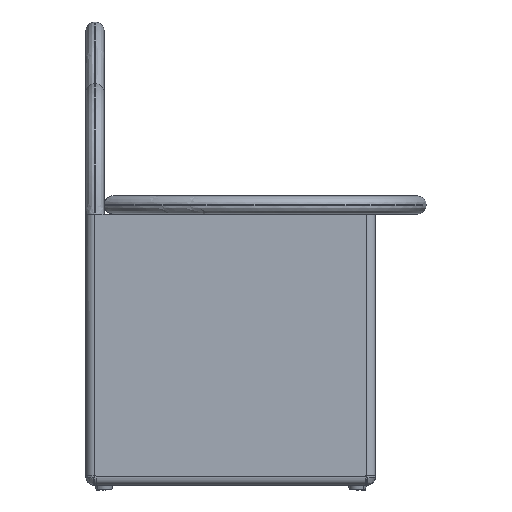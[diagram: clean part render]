
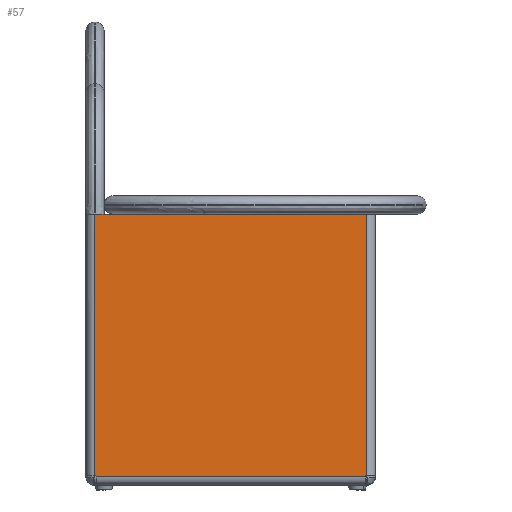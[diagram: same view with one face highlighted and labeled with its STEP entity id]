
A CAD part, left-side view. The second image highlights one B-rep face of the part: STEP entity #57.
In plain terms, the highlighted planar face has unit normal (-1, 0, 0).
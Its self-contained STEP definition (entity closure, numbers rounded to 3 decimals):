
#57=ADVANCED_FACE('',(#138),#1199,.T.);
#138=FACE_OUTER_BOUND('',#222,.T.);
#222=EDGE_LOOP('',(#402,#403,#404,#405,#406,#407,#408,#409));
#402=ORIENTED_EDGE('',*,*,#742,.F.);
#403=ORIENTED_EDGE('',*,*,#731,.T.);
#404=ORIENTED_EDGE('',*,*,#712,.T.);
#405=ORIENTED_EDGE('',*,*,#722,.T.);
#406=ORIENTED_EDGE('',*,*,#692,.F.);
#407=ORIENTED_EDGE('',*,*,#733,.T.);
#408=ORIENTED_EDGE('',*,*,#754,.F.);
#409=ORIENTED_EDGE('',*,*,#753,.F.);
#692=EDGE_CURVE('',#1086,#1087,#882,.T.);
#712=EDGE_CURVE('',#1106,#1107,#977,.T.);
#722=EDGE_CURVE('',#1107,#1087,#987,.T.);
#731=EDGE_CURVE('',#1116,#1106,#996,.T.);
#733=EDGE_CURVE('',#1086,#1120,#997,.T.);
#742=EDGE_CURVE('',#1116,#1127,#894,.T.);
#753=EDGE_CURVE('',#1127,#1130,#1003,.T.);
#754=EDGE_CURVE('',#1130,#1120,#1004,.T.);
#882=(
BOUNDED_CURVE()
B_SPLINE_CURVE(1,(#2166,#2167),.UNSPECIFIED.,.F.,.F.)
B_SPLINE_CURVE_WITH_KNOTS((2,2),(-288.689,0.),.UNSPECIFIED.)
CURVE()
GEOMETRIC_REPRESENTATION_ITEM()
RATIONAL_B_SPLINE_CURVE((1.,1.))
REPRESENTATION_ITEM('')
);
#894=(
BOUNDED_CURVE()
B_SPLINE_CURVE(1,(#2332,#2333),.UNSPECIFIED.,.F.,.F.)
B_SPLINE_CURVE_WITH_KNOTS((2,2),(-290.1,-1.411),
 .UNSPECIFIED.)
CURVE()
GEOMETRIC_REPRESENTATION_ITEM()
RATIONAL_B_SPLINE_CURVE((1.,1.))
REPRESENTATION_ITEM('')
);
#977=B_SPLINE_CURVE_WITH_KNOTS('',1,(#2208,#2209),.UNSPECIFIED.,.F.,.F.,
(2,2),(1538.685,1818.685),.UNSPECIFIED.);
#987=B_SPLINE_CURVE_WITH_KNOTS('',1,(#2229,#2230),.UNSPECIFIED.,.F.,.F.,
(2,2),(1818.685,1828.785),.UNSPECIFIED.);
#996=B_SPLINE_CURVE_WITH_KNOTS('',1,(#2247,#2248),.UNSPECIFIED.,.F.,.F.,
(2,2),(1528.585,1538.685),.UNSPECIFIED.);
#997=B_SPLINE_CURVE_WITH_KNOTS('',3,(#2252,#2253,#2254,#2255,#2256,#2257,
#2258),.UNSPECIFIED.,.F.,.F.,(4,3,4),(4.903,7.354,
7.354),.UNSPECIFIED.);
#1003=B_SPLINE_CURVE_WITH_KNOTS('',3,(#2357,#2358,#2359,#2360,#2361,#2362,
#2363),.UNSPECIFIED.,.F.,.F.,(4,3,4),(33.621,36.072,
36.072),.UNSPECIFIED.);
#1004=B_SPLINE_CURVE_WITH_KNOTS('',1,(#2364,#2365),.UNSPECIFIED.,.F.,.F.,
(2,2),(11.311,308.689),.UNSPECIFIED.);
#1086=VERTEX_POINT('',#1917);
#1087=VERTEX_POINT('',#1918);
#1106=VERTEX_POINT('',#1937);
#1107=VERTEX_POINT('',#1938);
#1116=VERTEX_POINT('',#1947);
#1120=VERTEX_POINT('',#1951);
#1127=VERTEX_POINT('',#1958);
#1130=VERTEX_POINT('',#1961);
#1199=PLANE('',#1371);
#1371=AXIS2_PLACEMENT_3D('',#1700,#1430,$);
#1430=DIRECTION('',(-1.,0.,0.));
#1700=CARTESIAN_POINT('',(4702.803,-300.,0.));
#1917=CARTESIAN_POINT('',(4702.803,10.1,-288.689));
#1918=CARTESIAN_POINT('',(4702.803,10.1,0.));
#1937=CARTESIAN_POINT('',(4702.803,-280.,0.));
#1938=CARTESIAN_POINT('',(4702.803,0.,0.));
#1947=CARTESIAN_POINT('',(4702.803,-290.1,0.));
#1951=CARTESIAN_POINT('',(4702.803,8.689,-290.1));
#1958=CARTESIAN_POINT('',(4702.803,-290.1,-288.689));
#1961=CARTESIAN_POINT('',(4702.803,-288.689,-290.1));
#2166=CARTESIAN_POINT('',(4702.803,10.1,-288.689));
#2167=CARTESIAN_POINT('',(4702.803,10.1,0.));
#2208=CARTESIAN_POINT('',(4702.803,-280.,0.));
#2209=CARTESIAN_POINT('',(4702.803,0.,0.));
#2229=CARTESIAN_POINT('',(4702.803,0.,0.));
#2230=CARTESIAN_POINT('',(4702.803,10.1,0.));
#2247=CARTESIAN_POINT('',(4702.803,-290.1,0.));
#2248=CARTESIAN_POINT('',(4702.803,-280.,0.));
#2252=CARTESIAN_POINT('',(4702.803,10.1,-288.689));
#2253=CARTESIAN_POINT('',(4702.803,9.321,-288.689));
#2254=CARTESIAN_POINT('',(4702.803,8.689,-289.321));
#2255=CARTESIAN_POINT('',(4702.803,8.689,-290.1));
#2256=CARTESIAN_POINT('',(4702.803,8.689,-290.1));
#2257=CARTESIAN_POINT('',(4702.803,8.689,-290.1));
#2258=CARTESIAN_POINT('',(4702.803,8.689,-290.1));
#2332=CARTESIAN_POINT('',(4702.803,-290.1,0.));
#2333=CARTESIAN_POINT('',(4702.803,-290.1,-288.689));
#2357=CARTESIAN_POINT('',(4702.803,-290.1,-288.689));
#2358=CARTESIAN_POINT('',(4702.803,-289.321,-288.689));
#2359=CARTESIAN_POINT('',(4702.803,-288.689,-289.321));
#2360=CARTESIAN_POINT('',(4702.803,-288.689,-290.1));
#2361=CARTESIAN_POINT('',(4702.803,-288.689,-290.1));
#2362=CARTESIAN_POINT('',(4702.803,-288.689,-290.1));
#2363=CARTESIAN_POINT('',(4702.803,-288.689,-290.1));
#2364=CARTESIAN_POINT('',(4702.803,-288.689,-290.1));
#2365=CARTESIAN_POINT('',(4702.803,8.689,-290.1));
